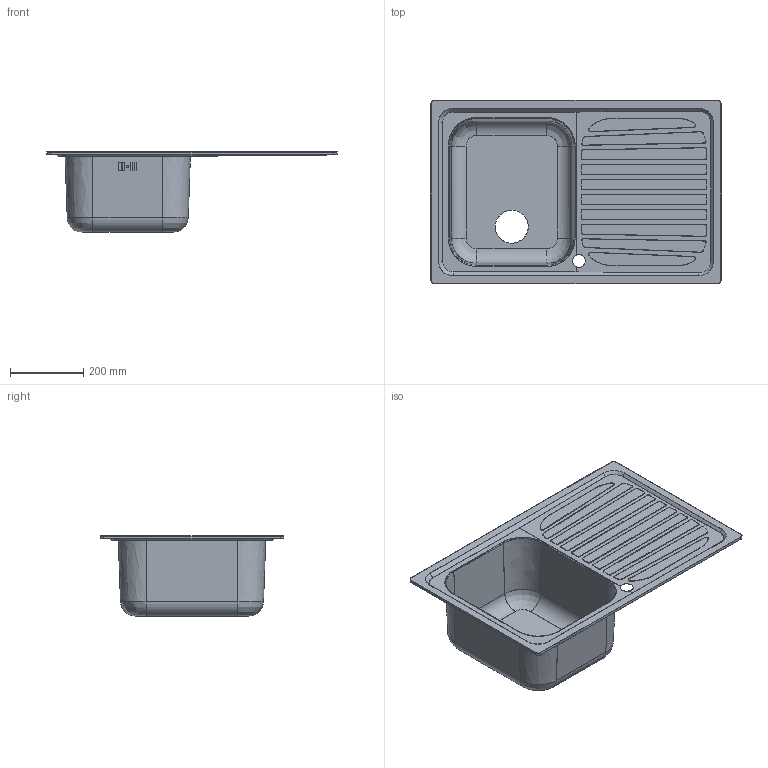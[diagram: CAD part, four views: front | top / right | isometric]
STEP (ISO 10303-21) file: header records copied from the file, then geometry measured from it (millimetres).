
FILE_DESCRIPTION((''),'1');
FILE_NAME('C:/Users/linop/Desktop/SP791S-2.stp','2018-05-11T13:13:50',(''),(''),'Spatial Interop R20 SP1','Kubotek KeyCreator V9.0.3 (16864)',' ');
FILE_SCHEMA(('CONFIG_CONTROL_DESIGN'));
Length unit declared in the file: millimetre
Products named in the file (2): 1; 2
Bounding box: 790 x 500 x 218 mm (x, y, z)
Volume: 401502 mm3; surface area: 1341568.8 mm2
Topology: 2 solids, 2 shells, 315 faces, 935 edges, 645 vertices
Faces by surface type: plane 141, cylinder 118, bspline 48, cone 8
Full cylindrical faces by diameter (mm): 35 x1, 90 x1
Entity records: 16925 total; most frequent: CARTESIAN_POINT 9167, ORIENTED_EDGE 1866, DIRECTION 1149, EDGE_CURVE 933, VERTEX_POINT 645, LINE 455, VECTOR 455, B_SPLINE_CURVE_WITH_KNOTS 400
